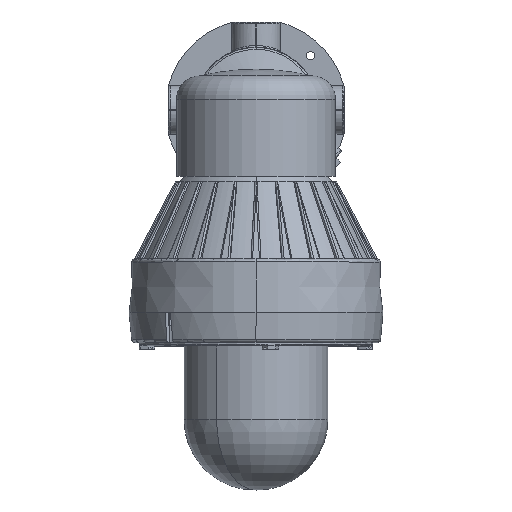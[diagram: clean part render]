
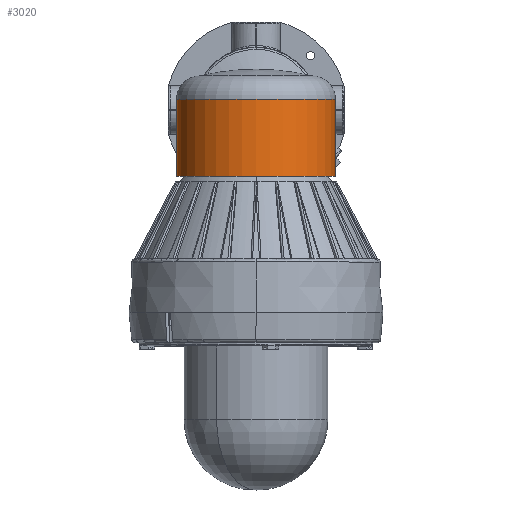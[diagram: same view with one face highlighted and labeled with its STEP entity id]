
A CAD part, top view. The second image highlights one B-rep face of the part: STEP entity #3020.
In plain terms, the highlighted cylindrical face has radius 60.325 mm (diameter 120.65 mm), a partial arc.
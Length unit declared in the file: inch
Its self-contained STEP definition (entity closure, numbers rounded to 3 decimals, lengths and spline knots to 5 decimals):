
#2931 = ORIENTED_EDGE ( 'NONE', *, *, #3040, .F. ) ;
#2979 = EDGE_CURVE ( 'NONE', #3057, #3093, #16286, .T. ) ;
#2981 = ORIENTED_EDGE ( 'NONE', *, *, #2983, .T. ) ;
#2983 = EDGE_CURVE ( 'NONE', #3041, #3094, #16271, .T. ) ;
#3020 = ADVANCED_FACE ( 'NONE', ( #16456 ), #16449, .T. ) ;
#3021 = EDGE_LOOP ( 'NONE', ( #2931, #2981, #3042, #3062 ) ) ;
#3040 = EDGE_CURVE ( 'NONE', #3041, #3057, #16412, .T. ) ;
#3041 = VERTEX_POINT ( 'NONE', #16492 ) ;
#3042 = ORIENTED_EDGE ( 'NONE', *, *, #3096, .T. ) ;
#3057 = VERTEX_POINT ( 'NONE', #16466 ) ;
#3062 = ORIENTED_EDGE ( 'NONE', *, *, #2979, .F. ) ;
#3093 = VERTEX_POINT ( 'NONE', #16619 ) ;
#3094 = VERTEX_POINT ( 'NONE', #16617 ) ;
#3096 = EDGE_CURVE ( 'NONE', #3094, #3093, #16615, .T. ) ;
#16268 = VECTOR ( 'NONE', #16361, 39.37008 ) ;
#16269 = CARTESIAN_POINT ( 'NONE',  ( 2.375, 10.775, 2. ) ) ;
#16271 = LINE ( 'NONE', #16269, #16268 ) ;
#16281 = DIRECTION ( 'NONE',  ( 0., 0., -1. ) ) ;
#16283 = VECTOR ( 'NONE', #16281, 39.37008 ) ;
#16285 = CARTESIAN_POINT ( 'NONE',  ( -2.375, 10.775, 2. ) ) ;
#16286 = LINE ( 'NONE', #16285, #16283 ) ;
#16361 = DIRECTION ( 'NONE',  ( 0., 0., -1. ) ) ;
#16411 = CARTESIAN_POINT ( 'NONE',  ( 0., 10.775, 2. ) ) ;
#16412 = CIRCLE ( 'NONE', #16498, 2.375 ) ;
#16445 = DIRECTION ( 'NONE',  ( -1., 0., 0. ) ) ;
#16446 = DIRECTION ( 'NONE',  ( 0., 0., -1. ) ) ;
#16448 = AXIS2_PLACEMENT_3D ( 'NONE', #16454, #16446, #16445 ) ;
#16449 = CYLINDRICAL_SURFACE ( 'NONE', #16448, 2.375 ) ;
#16454 = CARTESIAN_POINT ( 'NONE',  ( 0., 10.775, 2. ) ) ;
#16456 = FACE_OUTER_BOUND ( 'NONE', #3021, .T. ) ;
#16466 = CARTESIAN_POINT ( 'NONE',  ( -2.375, 10.775, 2. ) ) ;
#16492 = CARTESIAN_POINT ( 'NONE',  ( 2.375, 10.775, 2. ) ) ;
#16494 = DIRECTION ( 'NONE',  ( 1., 0., 0. ) ) ;
#16497 = DIRECTION ( 'NONE',  ( 0., 0., 1. ) ) ;
#16498 = AXIS2_PLACEMENT_3D ( 'NONE', #16411, #16497, #16494 ) ;
#16610 = DIRECTION ( 'NONE',  ( 1., 0., 0. ) ) ;
#16611 = DIRECTION ( 'NONE',  ( 0., 0., 1. ) ) ;
#16612 = CARTESIAN_POINT ( 'NONE',  ( 0., 10.775, -0.3 ) ) ;
#16614 = AXIS2_PLACEMENT_3D ( 'NONE', #16612, #16611, #16610 ) ;
#16615 = CIRCLE ( 'NONE', #16614, 2.375 ) ;
#16617 = CARTESIAN_POINT ( 'NONE',  ( 2.375, 10.775, -0.3 ) ) ;
#16619 = CARTESIAN_POINT ( 'NONE',  ( -2.375, 10.775, -0.3 ) ) ;
